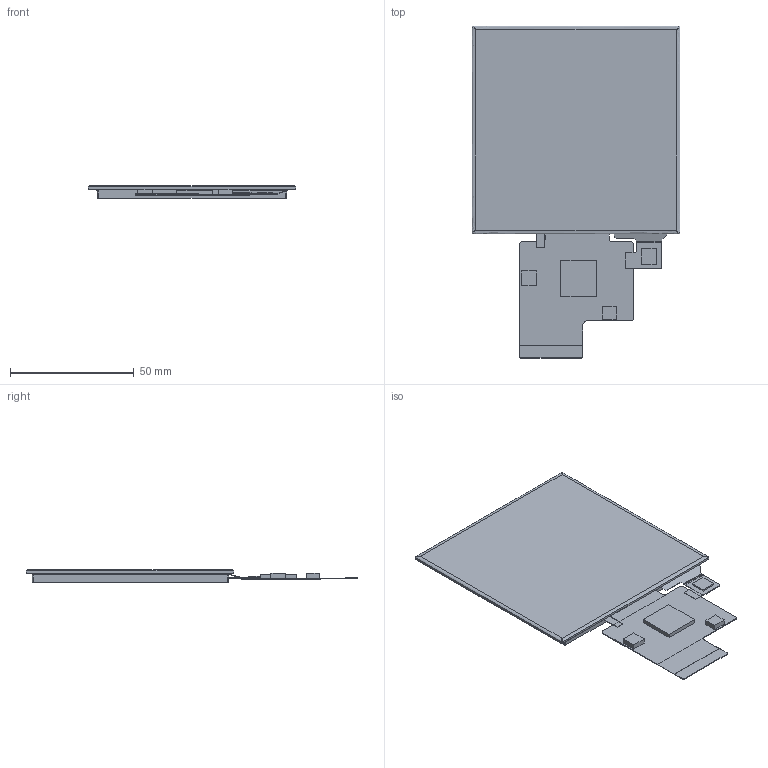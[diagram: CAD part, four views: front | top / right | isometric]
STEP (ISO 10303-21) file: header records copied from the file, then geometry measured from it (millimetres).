
FILE_DESCRIPTION((''),'2;1');
FILE_NAME('3D-DMG48480F040-01WTC-211203','2021-12-03T',('Administrator'),(''),'PRO/ENGINEER BY PARAMETRIC TECHNOLOGY CORPORATION, 2008380','PRO/ENGINEER BY PARAMETRIC TECHNOLOGY CORPORATION, 2008380','');
FILE_SCHEMA(('CONFIG_CONTROL_DESIGN'));
Length unit declared in the file: millimetre
Products named in the file (1): 3D-DMG48480F040-01WTC-211203
Bounding box: 84 x 134.15 x 5.08 mm (x, y, z)
Volume: 33418.1 mm3; surface area: 20471.6 mm2
Topology: 1 solids, 1 shells, 146 faces, 610 edges, 512 vertices
Faces by surface type: plane 100, cylinder 38, bspline 8
Entity records: 6185 total; most frequent: CARTESIAN_POINT 1406, DIRECTION 938, ORIENTED_EDGE 808, VECTOR 488, LINE 488, EDGE_CURVE 404, VERTEX_POINT 264, AXIS2_PLACEMENT_3D 225
